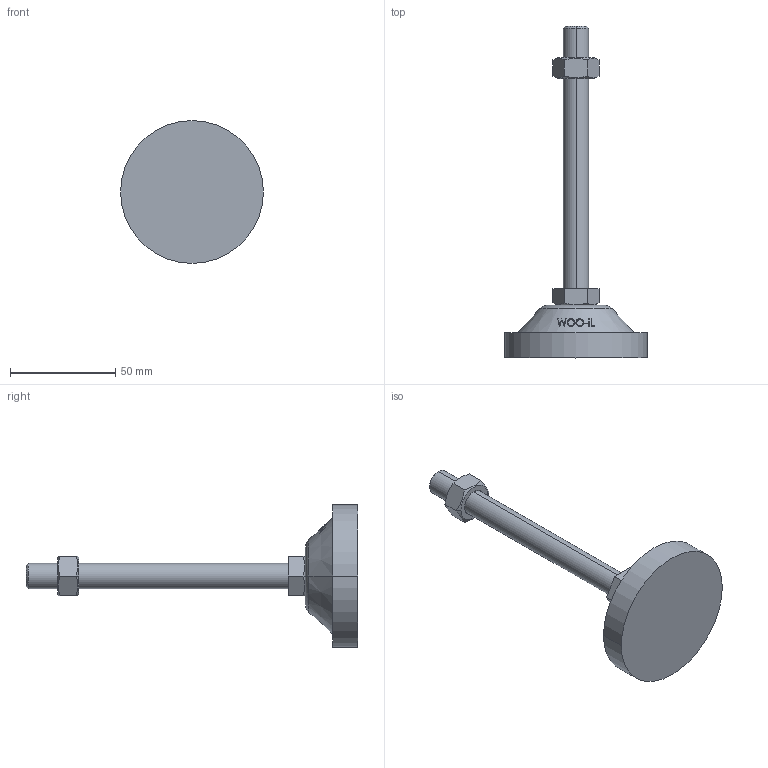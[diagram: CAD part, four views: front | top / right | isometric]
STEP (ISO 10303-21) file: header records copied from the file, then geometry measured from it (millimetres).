
FILE_DESCRIPTION (( 'STEP AP214' ), '1' );
FILE_NAME ('RL68-M12-125.step', '2021-01-06T08:16:51', ( '' ), ( '' ), 'SwSTEP 2.0', 'SolidWorks 2019', '' );
FILE_SCHEMA (( 'AUTOMOTIVE_DESIGN' ));
Length unit declared in the file: millimetre
Products named in the file (1): RL68-M12-125
Bounding box: 68 x 158 x 68 mm (x, y, z)
Volume: 81819.9 mm3; surface area: 17760.7 mm2
Topology: 3 solids, 3 shells, 93 faces, 217 edges, 140 vertices
Faces by surface type: plane 47, cone 22, bspline 16, cylinder 6, torus 2
Entity records: 4047 total; most frequent: CARTESIAN_POINT 2015, ORIENTED_EDGE 434, DIRECTION 349, EDGE_CURVE 217, VERTEX_POINT 140, AXIS2_PLACEMENT_3D 134, EDGE_LOOP 105, ADVANCED_FACE 93
